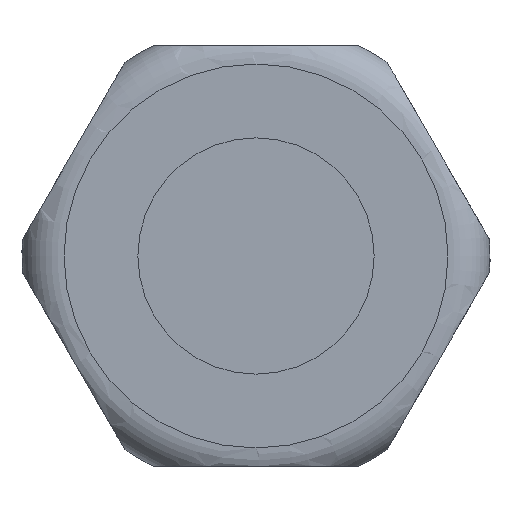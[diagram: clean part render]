
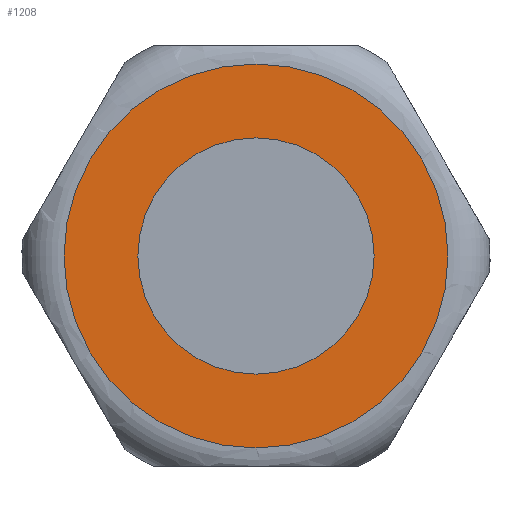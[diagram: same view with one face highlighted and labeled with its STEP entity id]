
A CAD part, left-side view. The second image highlights one B-rep face of the part: STEP entity #1208.
In plain terms, the highlighted planar face has unit normal (-1, 0, 0).
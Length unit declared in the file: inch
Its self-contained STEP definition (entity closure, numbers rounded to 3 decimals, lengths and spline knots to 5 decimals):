
#16=FACE_BOUND('',#171,.T.);
#67=PLANE('',#1322);
#105=FACE_OUTER_BOUND('',#170,.T.);
#170=EDGE_LOOP('',(#844,#845));
#171=EDGE_LOOP('',(#846,#847));
#335=CIRCLE('',#1278,0.31496);
#336=CIRCLE('',#1279,0.31496);
#362=CIRCLE('',#1323,0.51181);
#363=CIRCLE('',#1324,0.51181);
#439=VERTEX_POINT('',#1840);
#440=VERTEX_POINT('',#1841);
#479=VERTEX_POINT('',#2101);
#480=VERTEX_POINT('',#2102);
#566=EDGE_CURVE('',#439,#440,#335,.T.);
#567=EDGE_CURVE('',#440,#439,#336,.T.);
#623=EDGE_CURVE('',#479,#480,#362,.T.);
#624=EDGE_CURVE('',#480,#479,#363,.T.);
#844=ORIENTED_EDGE('',*,*,#623,.F.);
#845=ORIENTED_EDGE('',*,*,#624,.F.);
#846=ORIENTED_EDGE('',*,*,#566,.T.);
#847=ORIENTED_EDGE('',*,*,#567,.T.);
#1208=ADVANCED_FACE('',(#105,#16),#67,.T.);
#1278=AXIS2_PLACEMENT_3D('',#1842,#1450,#1451);
#1279=AXIS2_PLACEMENT_3D('',#1843,#1452,#1453);
#1322=AXIS2_PLACEMENT_3D('',#2100,#1554,#1555);
#1323=AXIS2_PLACEMENT_3D('',#2103,#1556,#1557);
#1324=AXIS2_PLACEMENT_3D('',#2104,#1558,#1559);
#1450=DIRECTION('center_axis',(1.,0.,0.));
#1451=DIRECTION('ref_axis',(0.,0.866,0.5));
#1452=DIRECTION('center_axis',(1.,0.,0.));
#1453=DIRECTION('ref_axis',(0.,0.866,0.5));
#1554=DIRECTION('center_axis',(-1.,0.,0.));
#1555=DIRECTION('ref_axis',(0.,0.866,0.5));
#1556=DIRECTION('center_axis',(1.,0.,0.));
#1557=DIRECTION('ref_axis',(0.,-0.866,-0.5));
#1558=DIRECTION('center_axis',(1.,0.,0.));
#1559=DIRECTION('ref_axis',(0.,-0.866,-0.5));
#1840=CARTESIAN_POINT('',(-2.39188,0.37407,-0.18686));
#1841=CARTESIAN_POINT('',(-2.39188,-0.17146,-0.50182));
#1842=CARTESIAN_POINT('Origin',(-2.39188,0.1013,-0.34434));
#1843=CARTESIAN_POINT('Origin',(-2.39188,0.1013,-0.34434));
#2100=CARTESIAN_POINT('Origin',(-2.39188,-0.34194,-0.60025));
#2101=CARTESIAN_POINT('',(-2.39188,-0.34194,-0.60025));
#2102=CARTESIAN_POINT('',(-2.39188,0.54454,-0.08844));
#2103=CARTESIAN_POINT('Origin',(-2.39188,0.1013,-0.34434));
#2104=CARTESIAN_POINT('Origin',(-2.39188,0.1013,-0.34434));
